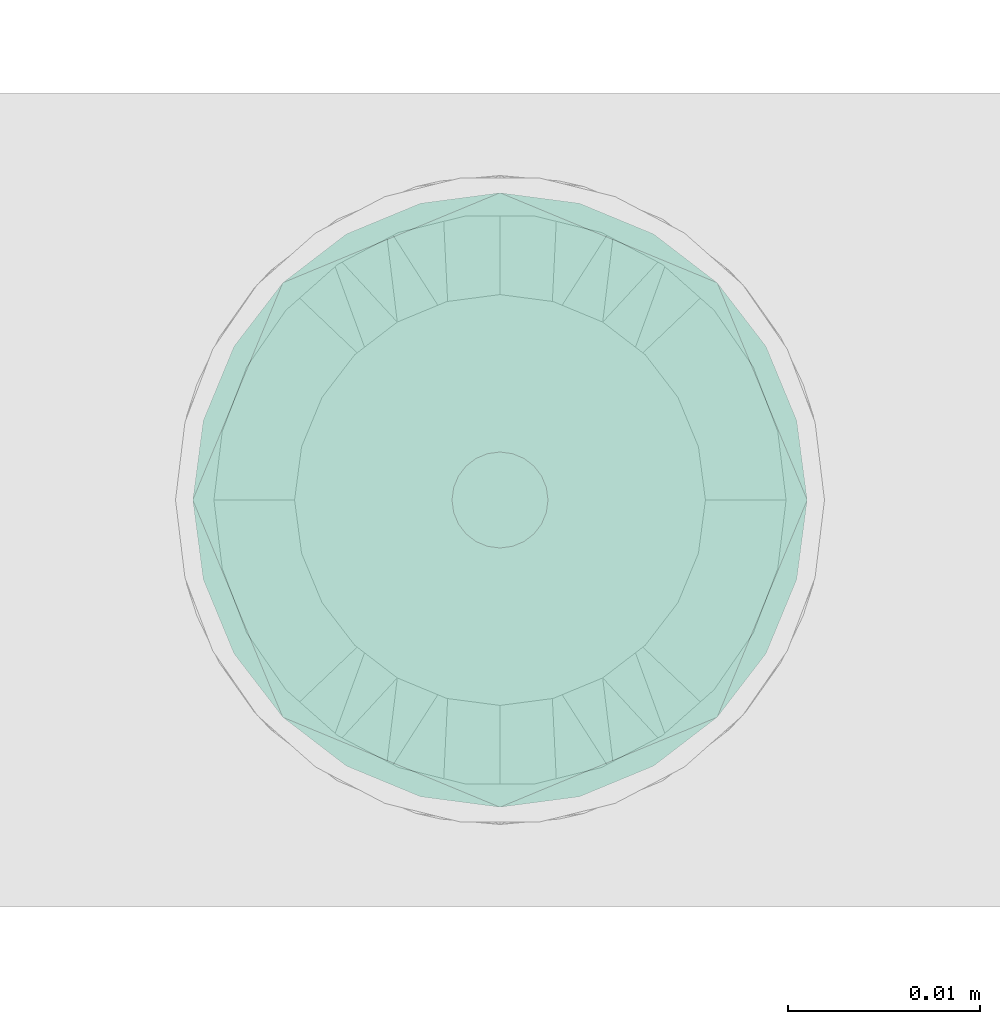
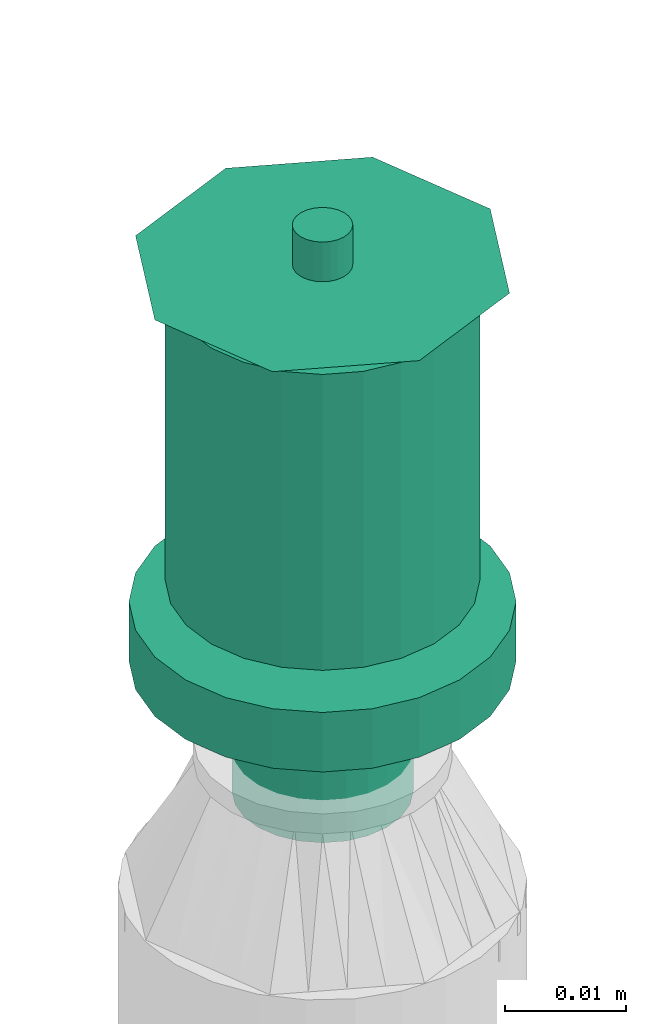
# One storey, part 89 of 94: 1 flow terminal.
"""IFC2X3 building model written with IfcOpenShell, lengths in millimetres."""

from ifc_helpers import new_model, entity, si_unit, converted_unit, derived_unit, direction, frame, origin_with_axes, place, context, subcontext, project, spatial, open_shell, surface_model, source, transform, mapped, type_object, element, save


model = new_model("IFC2X3")

# Units and contexts
model_context = context("Model", 3, precision=0.01, world=frame((0.0, 4.29681676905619e-09, 0.0)), true_north=direction((4.01073788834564e-13, 1.0)))
plan_context = context("Plan", 3, precision=0.01, world=frame((0.0, 4.29681676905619e-09, 0.0)), true_north=direction((4.01073788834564e-13, 1.0)))
body_context = subcontext(model_context, "Body", "Model", "MODEL_VIEW")
ifc_project = project(units=[converted_unit("PLANEANGLEUNIT", "DEGREE", entity("IfcPositiveLengthMeasure", 0.0174532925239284), si_unit("PLANEANGLEUNIT", "RADIAN"), dimensions=[0, 0, 0, 0, 0, 0, 0]), si_unit("AREAUNIT", "SQUARE_METRE"), si_unit("LENGTHUNIT", "METRE", prefix="MILLI"), si_unit("MASSUNIT", "GRAM", prefix="KILO"), si_unit("POWERUNIT", "WATT"), si_unit("PRESSUREUNIT", "PASCAL"), si_unit("FORCEUNIT", "NEWTON", prefix="KILO"), si_unit("ELECTRICCURRENTUNIT", "AMPERE"), si_unit("THERMODYNAMICTEMPERATUREUNIT", "DEGREE_CELSIUS"), si_unit("TIMEUNIT", "SECOND"), si_unit("VOLUMEUNIT", "CUBIC_METRE"), derived_unit("LINEARVELOCITYUNIT", [(si_unit("LENGTHUNIT", "METRE"), 1), (si_unit("TIMEUNIT", "SECOND"), -1)]), derived_unit("VOLUMETRICFLOWRATEUNIT", [(si_unit("VOLUMEUNIT", "CUBIC_METRE"), 1), (si_unit("TIMEUNIT", "SECOND"), -1)]), derived_unit("THERMALTRANSMITTANCEUNIT", [(si_unit("POWERUNIT", "WATT"), 1), (si_unit("THERMODYNAMICTEMPERATUREUNIT", "KELVIN"), -1), (si_unit("AREAUNIT", "SQUARE_METRE"), -1)])], contexts=[model_context, plan_context])

# Site, building, storey
site_placement = place(None, frame((0.0, -4.29681676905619e-09, 0.0), z_axis=(0.0, 0.0, 1.0), x_axis=(1.0, 0.0, 0.0)))
site = spatial("IfcSite", under=ifc_project, at=site_placement, CompositionType="ELEMENT")
building_placement = place(site_placement, frame((0.0, 4.29681676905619e-09, 0.0), z_axis=(0.0, 0.0, 1.0), x_axis=(1.0, 0.0, 0.0)))
building = spatial("IfcBuilding", under=site, at=building_placement, Name="mc-building", CompositionType="ELEMENT")
storey_placement = place(building_placement, frame((0.0, 0.0, 200300.0), z_axis=(0.0, 0.0, 1.0), x_axis=(1.0, 0.0, 0.0)))
storey = spatial("IfcBuildingStorey", under=building, at=storey_placement, Name="Nivå C", CompositionType="ELEMENT", Elevation=200300.0)

# Flow terminal
fire_suppression_terminal_type = type_object("IfcFireSuppressionTerminalType", Name="68DGR-STD-STÅENDE", PredefinedType="NOTDEFINED")
shared_shape = source(origin_with_axes(), body_context, "Body", "SurfaceModel", [
    surface_model("IfcShellBasedSurfaceModel", [(12.55704, 3.36465, 21.14766), (13.0, 0.0, 21.14766), (12.55704, -3.36465, 21.14766), (-12.55704, -3.36465, 21.14766), (-11.25833, -6.5, 21.14766), (-11.25833, -6.5, 51.0), (3.36465, -12.55704, 51.0), (3.36465, -12.55704, 21.14766), (6.5, -11.25833, 21.14766), (9.19239, -9.19239, 21.14766), (11.25833, -6.5, 21.14766), (9.19239, -9.19239, 51.0), (6.5, -11.25833, 51.0), (11.25833, -6.5, 51.0), (12.55704, -3.36465, 51.0), (13.0, 0.0, 51.0), (9.19239, 9.19239, 51.0), (11.25833, 6.5, 21.14766), (9.19239, 9.19239, 21.14766), (11.25833, 6.5, 51.0), (12.55704, 3.36465, 51.0), (6.5, 11.25833, 51.0), (6.5, 11.25833, 21.14766), (3.36465, 12.55704, 21.14766), (3.36465, 12.55704, 51.0), (-11.25833, 6.5, 51.0), (-11.25833, 6.5, 21.14766), (-12.55704, 3.36465, 21.14766), (0.0, -2.5, 51.0), (-2.5, 0.0, 51.0), (0.0, 2.5, 51.0), (2.5, 0.0, 51.0), (11.31371, 11.31371, 53.0), (-11.31371, 11.31371, 53.0), (-11.31371, -11.31371, 53.0), (11.31371, -11.31371, 53.0), (1.62635, 1.62635, 51.0), (2.16506, 1.25, 51.0), (1.99186, 1.15, 51.0), (-1.76777, 1.76777, 51.0), (-1.25, 2.16506, 51.0), (-1.62635, 1.62635, 51.0), (1.99186, -1.15, 51.0), (2.16506, -1.25, 51.0), (1.62635, -1.62635, 51.0), (-1.62635, -1.62635, 51.0), (-1.25, -2.16506, 51.0), (-1.76777, -1.76777, 51.0), (0.0, 7.3, 0.0), (1.94114, 7.24444, 0.0), (1.88938, 7.05126, 0.0), (5.16188, 5.16188, 0.0), (6.49519, 3.75, 0.0), (6.32199, 3.65, 0.0), (-5.3033, 5.3033, 0.0), (-3.75, 6.49519, 0.0), (-5.16188, 5.16188, 0.0), (6.32199, -3.65, 0.0), (6.49519, -3.75, 0.0), (5.16188, -5.16188, 0.0), (1.88938, -7.05126, 0.0), (1.94114, -7.24444, 0.0), (0.0, -7.3, 0.0), (-5.16188, -5.16188, 0.0), (-3.75, -6.49519, 0.0), (-5.3033, -5.3033, 0.0), (-3.36465, 12.55704, 51.0), (-6.5, 11.25833, 51.0), (0.0, 13.0, 51.0), (-9.19239, 9.19239, 51.0), (0.0, -13.0, 51.0), (-9.19239, -9.19239, 51.0), (-12.55704, -3.36465, 51.0), (-6.5, -11.25833, 51.0), (-3.36465, -12.55704, 51.0), (-7.5, 0.0, -0.1), (-7.24444, 1.94114, 0.1), (-7.24444, 1.94114, -0.1), (-6.49519, 3.75, 0.1), (-6.49519, 3.75, -0.1), (-3.75, 6.49519, -0.1), (-5.3033, 5.3033, -0.1), (-3.75, 6.49519, 0.1), (-5.3033, 5.3033, 0.1), (-1.94114, 7.24444, -0.1), (-1.94114, 7.24444, 0.1), (-7.5, 0.0, 0.1), (0.0, 7.5, 0.1), (0.0, 7.5, -0.1), (1.94114, 7.24444, 0.1), (1.94114, 7.24444, -0.1), (3.75, 6.49519, 0.1), (3.75, 6.49519, -0.1), (6.49519, 3.75, -0.1), (5.3033, 5.3033, -0.1), (6.49519, 3.75, 0.1), (5.3033, 5.3033, 0.1), (7.24444, 1.94114, -0.1), (7.24444, 1.94114, 0.1), (7.5, 0.0, 0.1), (7.5, 0.0, -0.1), (-7.24444, -1.94114, 0.1), (7.24444, -1.94114, 0.1), (5.3033, -5.3033, 0.1), (6.49519, -3.75, 0.1), (-6.49519, -3.75, 0.1), (0.0, -7.5, 0.1), (1.94114, -7.24444, 0.1), (3.75, -6.49519, 0.1), (-3.75, -6.49519, 0.1), (-1.94114, -7.24444, 0.1), (-5.3033, -5.3033, 0.1), (0.0, -7.5, -0.1), (-6.49519, -3.75, -0.1), (1.94114, -7.24444, -0.1), (3.75, -6.49519, -0.1), (5.3033, -5.3033, -0.1), (7.24444, -1.94114, -0.1), (6.49519, -3.75, -0.1), (-3.75, -6.49519, -0.1), (-5.3033, -5.3033, -0.1), (-1.94114, -7.24444, -0.1), (-7.24444, -1.94114, -0.1), (16.0, 0.0, 53.0), (0.0, -16.0, 53.0), (-16.0, 0.0, 53.0), (0.0, 16.0, 53.0), (0.64705, 2.41481, 57.0), (0.0, 2.5, 57.0), (1.25, 2.16506, 57.0), (-2.5, 0.0, 57.0), (1.76777, 1.76777, 57.0), (2.41481, 0.64705, 57.0), (2.16506, 1.25, 57.0), (-0.64705, 2.41481, 57.0), (-1.25, 2.16506, 57.0), (-1.76777, 1.76777, 57.0), (-2.16506, 1.25, 57.0), (-2.41481, 0.64705, 57.0), (2.5, 0.0, 57.0), (1.76777, -1.76777, 57.0), (2.16506, -1.25, 57.0), (2.41481, -0.64705, 57.0), (-2.41481, -0.64705, 57.0), (0.64705, -2.41481, 57.0), (1.25, -2.16506, 57.0), (0.0, -2.5, 57.0), (-1.76777, -1.76777, 57.0), (-2.16506, -1.25, 57.0), (-1.25, -2.16506, 57.0), (-0.64705, -2.41481, 57.0), (1.15, -1.99186, 51.0), (1.76777, -1.76777, 51.0), (1.25, -2.16506, 51.0), (0.59528, -2.22163, 51.0), (0.0, -2.3, 51.0), (0.64705, -2.41481, 51.0), (2.22163, -0.59528, 51.0), (2.3, 0.0, 51.0), (2.41481, -0.64705, 51.0), (-0.64705, -2.41481, 51.0), (-0.59528, -2.22163, 51.0), (-1.15, -1.99186, 51.0), (-2.16506, -1.25, 51.0), (-1.99186, -1.15, 51.0), (-2.22163, -0.59528, 51.0), (-2.3, 0.0, 51.0), (-2.41481, -0.64705, 51.0), (2.22163, 0.59528, 51.0), (2.41481, 0.64705, 51.0), (1.76777, 1.76777, 51.0), (1.15, 1.99186, 51.0), (1.25, 2.16506, 51.0), (0.59528, 2.22163, 51.0), (0.0, 2.3, 51.0), (0.64705, 2.41481, 51.0), (-1.99186, 1.15, 51.0), (-2.16506, 1.25, 51.0), (-2.41481, 0.64705, 51.0), (-2.22163, 0.59528, 51.0), (-0.64705, 2.41481, 51.0), (-0.59528, 2.22163, 51.0), (-1.15, 1.99186, 51.0), (-2.22163, 0.59528, 56.8), (-1.99186, 1.15, 56.8), (-1.15, 1.99186, 56.8), (-1.62635, 1.62635, 56.8), (-0.59528, 2.22163, 56.8), (-2.3, 0.0, 56.8), (0.0, 2.3, 56.8), (0.59528, 2.22163, 56.8), (1.15, 1.99186, 56.8), (1.99186, 1.15, 56.8), (1.62635, 1.62635, 56.8), (2.22163, 0.59528, 56.8), (2.3, 0.0, 56.8), (2.22163, -0.59528, 56.8), (1.99186, -1.15, 56.8), (1.62635, -1.62635, 56.8), (1.15, -1.99186, 56.8), (0.59528, -2.22163, 56.8), (0.0, -2.3, 56.8), (-1.99186, -1.15, 56.8), (-2.22163, -0.59528, 56.8), (-1.62635, -1.62635, 56.8), (-0.59528, -2.22163, 56.8), (-1.15, -1.99186, 56.8), (8.0, -13.85641, 13.0), (4.1411, -15.45481, 13.0), (0.0, -16.0, 13.0), (-4.1411, -15.45481, 13.0), (15.45481, -4.1411, 13.0), (13.85641, -8.0, 13.0), (11.31371, -11.31371, 13.0), (-16.0, 0.0, 13.0), (-8.0, -13.85641, 13.0), (-11.31371, -11.31371, 13.0), (-13.85641, -8.0, 13.0), (-15.45481, -4.1411, 13.0), (15.45481, 4.1411, 13.0), (4.1411, 15.45481, 13.0), (13.85641, 8.0, 13.0), (8.0, 13.85641, 13.0), (11.31371, 11.31371, 13.0), (-15.45481, 4.1411, 13.0), (-11.31371, 11.31371, 13.0), (-8.0, 13.85641, 13.0), (-13.85641, 8.0, 13.0), (-4.1411, 15.45481, 13.0), (0.0, 16.0, 13.0), (16.0, 0.0, 13.0), (7.05126, 1.88938, 12.8), (1.88938, 7.05126, 12.8), (3.65, 6.32199, 12.8), (6.32199, 3.65, 12.8), (5.16188, 5.16188, 12.8), (7.3, 0.0, 12.8), (0.0, 7.3, 12.8), (-3.65, 6.32199, 12.8), (-1.88938, 7.05126, 12.8), (-5.16188, 5.16188, 12.8), (-7.05126, 1.88938, 12.8), (-6.32199, 3.65, 12.8), (7.05126, -1.88938, 12.8), (0.0, -7.3, 12.8), (6.32199, -3.65, 12.8), (3.65, -6.32199, 12.8), (5.16188, -5.16188, 12.8), (1.88938, -7.05126, 12.8), (-7.3, 0.0, 12.8), (-6.32199, -3.65, 12.8), (-7.05126, -1.88938, 12.8), (-1.88938, -7.05126, 12.8), (-5.16188, -5.16188, 12.8), (-3.65, -6.32199, 12.8), (-7.05126, 1.88938, 0.0), (-7.3, 0.0, 0.0), (-6.32199, 3.65, 0.0), (-3.65, 6.32199, 0.0), (-1.88938, 7.05126, 0.0), (3.65, 6.32199, 0.0), (7.05126, 1.88938, 0.0), (7.3, 0.0, 0.0), (3.75, 6.49519, 13.0), (1.94114, 7.24444, 13.0), (7.5, 0.0, 13.0), (5.3033, 5.3033, 13.0), (7.24444, 1.94114, 13.0), (6.49519, 3.75, 13.0), (-5.3033, 5.3033, 13.0), (-7.24444, -1.94114, 13.0), (-1.94114, 7.24444, 13.0), (-3.75, 6.49519, 13.0), (0.0, 7.5, 13.0), (-6.49519, 3.75, 13.0), (-7.24444, 1.94114, 13.0), (7.24444, -1.94114, 13.0), (5.3033, -5.3033, 13.0), (6.49519, -3.75, 13.0), (-6.49519, -3.75, 13.0), (0.0, -7.5, 13.0), (1.94114, -7.24444, 13.0), (3.75, -6.49519, 13.0), (-7.5, 0.0, 13.0), (-3.75, -6.49519, 13.0), (-1.94114, -7.24444, 13.0), (-5.3033, -5.3033, 13.0), (3.65, -6.32199, 0.0), (5.3033, -5.3033, 0.0), (3.75, -6.49519, 0.0), (0.0, -7.5, 0.0), (7.05126, -1.88938, 0.0), (7.24444, -1.94114, 0.0), (7.5, 0.0, 0.0), (-1.94114, -7.24444, 0.0), (-1.88938, -7.05126, 0.0), (-3.65, -6.32199, 0.0), (-6.49519, -3.75, 0.0), (-6.32199, -3.65, 0.0), (-7.05126, -1.88938, 0.0), (-7.24444, -1.94114, 0.0), (-7.5, 0.0, 0.0), (7.24444, 1.94114, 0.0), (5.3033, 5.3033, 0.0), (3.75, 6.49519, 0.0), (0.0, 7.5, 0.0), (-6.49519, 3.75, 0.0), (-7.24444, 1.94114, 0.0), (-1.94114, 7.24444, 0.0), (-12.55704, 3.36465, 51.0), (-13.0, 0.0, 51.0), (0.0, -13.0, 21.14766), (-3.36465, -12.55704, 21.14766), (-6.5, -11.25833, 21.14766), (-9.19239, -9.19239, 21.14766), (-13.0, 0.0, 21.14766), (-9.19239, 9.19239, 21.14766), (-6.5, 11.25833, 21.14766), (-3.36465, 12.55704, 21.14766), (0.0, 13.0, 21.14766), (11.31371, 11.31371, 19.0), (8.0, 13.85641, 19.0), (4.1411, 15.45481, 19.0), (-8.0, 13.85641, 19.0), (16.0, 0.0, 19.0), (15.45481, 4.1411, 19.0), (13.85641, 8.0, 19.0), (-4.1411, 15.45481, 19.0), (0.0, 16.0, 19.0), (-11.31371, 11.31371, 19.0), (-13.85641, 8.0, 19.0), (-15.45481, 4.1411, 19.0), (15.45481, -4.1411, 19.0), (11.31371, -11.31371, 19.0), (13.85641, -8.0, 19.0), (-16.0, 0.0, 19.0), (0.0, -16.0, 19.0), (4.1411, -15.45481, 19.0), (8.0, -13.85641, 19.0), (-13.85641, -8.0, 19.0), (-11.31371, -11.31371, 19.0), (-15.45481, -4.1411, 19.0), (-8.0, -13.85641, 19.0), (-4.1411, -15.45481, 19.0)], [open_shell([[[0, 1, 2]], [[3, 4, 5]], [[6, 7, 8]], [[9, 10, 11]], [[9, 11, 12]], [[10, 13, 11]], [[14, 13, 2]], [[1, 15, 14]], [[16, 17, 18]], [[0, 19, 20]], [[20, 15, 1]], [[21, 16, 18]], [[22, 23, 24]], [[16, 19, 17]], [[25, 26, 27]], [[28, 29, 30]], [[30, 31, 28]], [[31, 30, 32]], [[33, 30, 29]], [[29, 28, 34]], [[35, 28, 31]], [[36, 37, 38]], [[39, 40, 41]], [[42, 43, 44]], [[45, 46, 47]], [[48, 49, 50]], [[51, 52, 53]], [[54, 55, 56]], [[57, 58, 59]], [[60, 61, 62]], [[63, 64, 65]], [[66, 67, 68]], [[67, 24, 68]], [[69, 25, 67]], [[15, 20, 14]], [[70, 6, 12]], [[5, 71, 72]], [[73, 74, 71]], [[72, 71, 74]], [[75, 76, 77]], [[77, 78, 79]], [[80, 81, 82]], [[83, 81, 79]], [[84, 80, 85]], [[76, 78, 77]], [[75, 86, 76]], [[80, 82, 85]], [[82, 81, 83]], [[79, 78, 83]], [[84, 85, 87]], [[87, 88, 84]], [[88, 89, 90]], [[90, 91, 92]], [[93, 94, 95]], [[96, 94, 92]], [[97, 93, 98]], [[91, 96, 92]], [[90, 89, 91]], [[97, 98, 99]], [[98, 93, 95]], [[94, 96, 95]], [[97, 99, 100]], [[87, 89, 88]], [[91, 89, 99]], [[96, 91, 98]], [[91, 99, 98]], [[95, 96, 98]], [[89, 83, 101]], [[85, 82, 87]], [[83, 87, 82]], [[78, 76, 83]], [[89, 87, 83]], [[76, 101, 83]], [[102, 99, 89]], [[103, 104, 102]], [[89, 105, 103]], [[103, 106, 107]], [[108, 103, 107]], [[106, 103, 105]], [[89, 101, 105]], [[101, 76, 86]], [[109, 110, 111]], [[105, 111, 110]], [[106, 105, 110]], [[103, 102, 89]], [[112, 113, 114]], [[115, 114, 116]], [[117, 118, 116]], [[113, 116, 114]], [[116, 113, 117]], [[119, 120, 121]], [[113, 121, 120]], [[121, 113, 112]], [[113, 122, 117]], [[75, 77, 122]], [[100, 117, 122]], [[100, 81, 97]], [[93, 97, 90]], [[90, 92, 94]], [[93, 90, 94]], [[90, 97, 81]], [[79, 81, 77]], [[77, 81, 122]], [[84, 88, 80]], [[81, 80, 88]], [[81, 88, 90]], [[100, 122, 81]], [[100, 102, 117]], [[117, 104, 118]], [[115, 116, 108]], [[103, 116, 118]], [[114, 115, 107]], [[102, 104, 117]], [[100, 99, 102]], [[115, 108, 107]], [[108, 116, 103]], [[118, 104, 103]], [[114, 107, 106]], [[106, 112, 114]], [[112, 110, 121]], [[121, 109, 119]], [[113, 120, 105]], [[111, 120, 119]], [[122, 113, 101]], [[109, 111, 119]], [[121, 110, 109]], [[122, 101, 86]], [[101, 113, 105]], [[120, 111, 105]], [[122, 86, 75]], [[106, 110, 112]], [[31, 123, 35]], [[35, 124, 28]], [[124, 34, 28]], [[29, 34, 125]], [[33, 32, 126]], [[33, 125, 124]], [[124, 32, 33]], [[124, 35, 123]], [[124, 125, 34]], [[123, 32, 124]], [[29, 125, 33]], [[33, 126, 30]], [[126, 32, 30]], [[31, 32, 123]], [[127, 128, 129]], [[129, 130, 131]], [[132, 131, 130]], [[133, 131, 132]], [[130, 129, 128]], [[134, 135, 128]], [[136, 128, 135]], [[137, 138, 136]], [[128, 136, 130]], [[138, 130, 136]], [[139, 132, 130]], [[140, 141, 142]], [[143, 140, 139]], [[144, 140, 143]], [[145, 140, 144]], [[146, 144, 147]], [[139, 130, 143]], [[143, 148, 144]], [[149, 150, 147]], [[144, 148, 147]], [[146, 147, 150]], [[140, 142, 139]], [[151, 152, 153]], [[154, 151, 153]], [[155, 154, 156]], [[153, 156, 154]], [[28, 155, 156]], [[44, 152, 151]], [[157, 158, 159]], [[31, 159, 158]], [[43, 157, 159]], [[152, 44, 43]], [[157, 43, 42]], [[160, 161, 28]], [[161, 155, 28]], [[162, 161, 160]], [[160, 46, 162]], [[162, 46, 45]], [[47, 163, 164]], [[165, 164, 163]], [[45, 47, 164]], [[166, 165, 167]], [[163, 167, 165]], [[29, 166, 167]], [[168, 169, 31]], [[38, 169, 168]], [[169, 38, 37]], [[170, 37, 36]], [[171, 172, 170]], [[173, 172, 171]], [[174, 175, 173]], [[172, 173, 175]], [[30, 175, 174]], [[170, 36, 171]], [[39, 176, 177]], [[41, 176, 39]], [[178, 177, 176]], [[178, 179, 29]], [[176, 179, 178]], [[179, 166, 29]], [[180, 30, 181]], [[182, 180, 181]], [[182, 41, 40]], [[180, 182, 40]], [[181, 30, 174]], [[31, 158, 168]], [[29, 138, 178]], [[178, 137, 177]], [[40, 39, 135]], [[136, 39, 177]], [[180, 40, 134]], [[138, 137, 178]], [[29, 130, 138]], [[40, 135, 134]], [[135, 39, 136]], [[177, 137, 136]], [[180, 134, 128]], [[128, 30, 180]], [[30, 127, 175]], [[175, 129, 172]], [[37, 170, 133]], [[131, 170, 172]], [[169, 37, 132]], [[129, 131, 172]], [[175, 127, 129]], [[169, 132, 139]], [[132, 37, 133]], [[170, 131, 133]], [[169, 139, 31]], [[128, 127, 30]], [[179, 183, 166]], [[176, 184, 179]], [[185, 41, 182]], [[176, 41, 186]], [[187, 182, 181]], [[179, 184, 183]], [[183, 188, 166]], [[187, 185, 182]], [[186, 41, 185]], [[186, 184, 176]], [[189, 187, 181]], [[181, 174, 189]], [[173, 190, 174]], [[171, 191, 173]], [[192, 36, 38]], [[171, 36, 193]], [[194, 38, 168]], [[171, 193, 191]], [[191, 190, 173]], [[195, 194, 168]], [[192, 38, 194]], [[192, 193, 36]], [[158, 195, 168]], [[174, 190, 189]], [[31, 142, 159]], [[159, 141, 43]], [[153, 152, 145]], [[140, 152, 43]], [[156, 153, 144]], [[142, 141, 159]], [[31, 139, 142]], [[153, 145, 144]], [[145, 152, 140]], [[43, 141, 140]], [[156, 144, 146]], [[146, 28, 156]], [[28, 150, 160]], [[160, 149, 46]], [[163, 47, 148]], [[147, 47, 46]], [[167, 163, 143]], [[149, 147, 46]], [[160, 150, 149]], [[167, 143, 130]], [[143, 163, 148]], [[47, 147, 148]], [[167, 130, 29]], [[146, 150, 28]], [[190, 191, 193]], [[190, 193, 195]], [[194, 195, 193]], [[194, 193, 192]], [[190, 195, 186]], [[189, 185, 187]], [[185, 189, 186]], [[186, 183, 184]], [[186, 189, 190]], [[186, 196, 183]], [[186, 195, 196]], [[196, 197, 198]], [[196, 198, 199]], [[199, 200, 201]], [[199, 201, 196]], [[196, 201, 202]], [[188, 202, 203]], [[183, 202, 188]], [[204, 205, 206]], [[205, 204, 202]], [[201, 205, 202]], [[202, 183, 196]], [[157, 196, 158]], [[42, 197, 157]], [[199, 44, 151]], [[42, 44, 198]], [[200, 151, 154]], [[157, 197, 196]], [[196, 195, 158]], [[200, 199, 151]], [[198, 44, 199]], [[198, 197, 42]], [[201, 200, 154]], [[154, 155, 201]], [[161, 205, 155]], [[162, 206, 161]], [[202, 45, 164]], [[162, 45, 204]], [[203, 164, 165]], [[162, 204, 206]], [[206, 205, 161]], [[188, 203, 165]], [[202, 164, 203]], [[202, 204, 45]], [[166, 188, 165]], [[155, 205, 201]], [[207, 208, 209]], [[207, 209, 210]], [[211, 212, 213]], [[213, 207, 214]], [[211, 213, 214]], [[215, 216, 210]], [[217, 210, 216]], [[217, 218, 210]], [[218, 207, 210]], [[218, 214, 207]], [[214, 219, 211]], [[220, 219, 214]], [[221, 219, 220]], [[220, 222, 223]], [[221, 220, 223]], [[214, 224, 220]], [[225, 226, 227]], [[224, 227, 226]], [[228, 229, 226]], [[220, 224, 226]], [[226, 229, 220]], [[219, 230, 211]], [[231, 232, 233]], [[234, 233, 235]], [[231, 236, 232]], [[231, 233, 234]], [[232, 236, 237]], [[237, 238, 239]], [[238, 237, 240]], [[240, 241, 242]], [[240, 237, 236]], [[236, 241, 240]], [[236, 243, 241]], [[244, 243, 245]], [[246, 245, 247]], [[246, 248, 244]], [[246, 244, 245]], [[243, 244, 249]], [[249, 250, 251]], [[250, 249, 252]], [[253, 252, 254]], [[252, 253, 250]], [[249, 244, 252]], [[243, 249, 241]], [[255, 241, 256]], [[257, 242, 255]], [[238, 56, 258]], [[257, 56, 240]], [[239, 258, 259]], [[255, 242, 241]], [[241, 249, 256]], [[239, 238, 258]], [[240, 56, 238]], [[240, 242, 257]], [[237, 239, 259]], [[259, 48, 237]], [[50, 232, 48]], [[260, 233, 50]], [[234, 51, 53]], [[260, 51, 235]], [[231, 53, 261]], [[260, 235, 233]], [[233, 232, 50]], [[236, 231, 261]], [[234, 53, 231]], [[234, 235, 51]], [[262, 236, 261]], [[48, 232, 237]], [[263, 264, 265]], [[266, 263, 267]], [[263, 265, 267]], [[268, 266, 267]], [[264, 269, 270]], [[271, 272, 273]], [[269, 273, 272]], [[274, 275, 269]], [[264, 273, 269]], [[275, 270, 269]], [[276, 265, 264]], [[277, 278, 276]], [[264, 279, 277]], [[277, 280, 281]], [[282, 277, 281]], [[280, 277, 279]], [[264, 270, 279]], [[270, 275, 283]], [[284, 285, 286]], [[279, 286, 285]], [[280, 279, 285]], [[277, 276, 264]], [[287, 288, 289]], [[60, 287, 289]], [[290, 62, 61]], [[289, 61, 60]], [[59, 288, 287]], [[291, 262, 292]], [[293, 292, 262]], [[58, 291, 292]], [[288, 59, 58]], [[291, 58, 57]], [[294, 295, 290]], [[296, 295, 294]], [[294, 64, 296]], [[64, 63, 296]], [[295, 62, 290]], [[65, 297, 298]], [[299, 298, 297]], [[63, 65, 298]], [[256, 299, 300]], [[297, 300, 299]], [[301, 256, 300]], [[261, 302, 293]], [[53, 302, 261]], [[302, 53, 52]], [[303, 52, 51]], [[260, 304, 303]], [[50, 304, 260]], [[304, 50, 49]], [[305, 49, 48]], [[303, 51, 260]], [[54, 257, 306]], [[56, 257, 54]], [[307, 306, 257]], [[307, 255, 301]], [[257, 255, 307]], [[255, 256, 301]], [[308, 305, 259]], [[258, 308, 259]], [[55, 258, 56]], [[308, 258, 55]], [[259, 305, 48]], [[293, 262, 261]], [[301, 275, 307]], [[307, 274, 306]], [[55, 54, 272]], [[269, 54, 306]], [[308, 55, 271]], [[275, 274, 307]], [[301, 283, 275]], [[55, 272, 271]], [[272, 54, 269]], [[306, 274, 269]], [[308, 271, 273]], [[273, 305, 308]], [[305, 264, 49]], [[49, 263, 304]], [[52, 303, 268]], [[266, 303, 304]], [[302, 52, 267]], [[263, 266, 304]], [[49, 264, 263]], [[302, 267, 265]], [[267, 52, 268]], [[303, 266, 268]], [[302, 265, 293]], [[273, 264, 305]], [[293, 276, 292]], [[292, 278, 58]], [[289, 288, 282]], [[277, 288, 58]], [[61, 289, 281]], [[276, 278, 292]], [[293, 265, 276]], [[289, 282, 281]], [[282, 288, 277]], [[58, 278, 277]], [[61, 281, 280]], [[280, 290, 61]], [[290, 285, 294]], [[294, 284, 64]], [[297, 65, 279]], [[286, 65, 64]], [[300, 297, 270]], [[284, 286, 64]], [[294, 285, 284]], [[300, 270, 283]], [[270, 297, 279]], [[65, 286, 279]], [[300, 283, 301]], [[280, 285, 290]], [[291, 243, 262]], [[57, 245, 291]], [[246, 59, 287]], [[57, 59, 247]], [[248, 287, 60]], [[291, 245, 243]], [[243, 236, 262]], [[248, 246, 287]], [[247, 59, 246]], [[247, 245, 57]], [[244, 248, 60]], [[60, 62, 244]], [[295, 252, 62]], [[296, 254, 295]], [[250, 63, 298]], [[296, 63, 253]], [[251, 298, 299]], [[296, 253, 254]], [[254, 252, 295]], [[249, 251, 299]], [[250, 298, 251]], [[250, 253, 63]], [[256, 249, 299]], [[62, 252, 244]], [[16, 21, 24]], [[20, 16, 24]], [[24, 67, 72]], [[19, 16, 20]], [[24, 72, 20]], [[25, 72, 67]], [[309, 310, 25]], [[11, 13, 14]], [[72, 11, 20]], [[74, 12, 11]], [[12, 74, 70]], [[72, 25, 310]], [[72, 74, 11]], [[11, 14, 20]], [[8, 7, 311]], [[8, 311, 312]], [[2, 10, 9]], [[3, 9, 8]], [[3, 26, 9]], [[313, 314, 312]], [[3, 312, 314]], [[4, 3, 314]], [[3, 8, 312]], [[315, 26, 3]], [[2, 9, 26]], [[0, 2, 26]], [[17, 0, 18]], [[23, 22, 18]], [[0, 23, 18]], [[23, 0, 26]], [[316, 317, 26]], [[26, 315, 27]], [[318, 319, 317]], [[23, 26, 317]], [[23, 317, 319]], [[316, 26, 25]], [[318, 317, 67]], [[69, 317, 316]], [[319, 318, 66]], [[310, 309, 315]], [[27, 315, 309]], [[25, 27, 309]], [[25, 69, 316]], [[317, 69, 67]], [[67, 66, 318]], [[66, 68, 319]], [[22, 21, 18]], [[0, 17, 19]], [[1, 0, 20]], [[68, 24, 23]], [[24, 21, 22]], [[319, 68, 23]], [[1, 14, 2]], [[2, 13, 10]], [[6, 311, 7]], [[6, 8, 12]], [[12, 8, 9]], [[6, 70, 311]], [[313, 312, 74]], [[313, 73, 314]], [[71, 4, 314]], [[315, 3, 72]], [[70, 74, 312]], [[74, 73, 313]], [[73, 71, 314]], [[71, 5, 4]], [[3, 5, 72]], [[72, 310, 315]], [[311, 70, 312]], [[320, 321, 322]], [[320, 322, 323]], [[320, 324, 325]], [[326, 320, 325]], [[324, 320, 323]], [[327, 323, 328]], [[323, 322, 328]], [[329, 330, 323]], [[331, 323, 330]], [[323, 331, 324]], [[331, 332, 324]], [[333, 334, 332]], [[335, 333, 331]], [[336, 337, 338]], [[335, 338, 333]], [[338, 335, 336]], [[339, 340, 341]], [[335, 341, 340]], [[342, 343, 340]], [[335, 340, 343]], [[343, 336, 335]], [[332, 331, 333]], [[214, 331, 224]], [[224, 330, 227]], [[226, 225, 323]], [[329, 225, 227]], [[228, 226, 327]], [[331, 330, 224]], [[214, 335, 331]], [[226, 323, 327]], [[323, 225, 329]], [[227, 330, 329]], [[228, 327, 328]], [[328, 229, 228]], [[229, 322, 220]], [[220, 321, 222]], [[221, 223, 326]], [[320, 223, 222]], [[219, 221, 325]], [[321, 320, 222]], [[220, 322, 321]], [[219, 325, 324]], [[325, 221, 326]], [[223, 320, 326]], [[219, 324, 230]], [[328, 322, 229]], [[230, 332, 211]], [[211, 334, 212]], [[207, 213, 338]], [[333, 213, 212]], [[208, 207, 337]], [[332, 334, 211]], [[230, 324, 332]], [[207, 338, 337]], [[338, 213, 333]], [[212, 334, 333]], [[208, 337, 336]], [[336, 209, 208]], [[209, 343, 210]], [[210, 342, 215]], [[217, 216, 339]], [[340, 216, 215]], [[218, 217, 341]], [[342, 340, 215]], [[210, 343, 342]], [[218, 341, 335]], [[341, 217, 339]], [[216, 340, 339]], [[218, 335, 214]], [[336, 343, 209]]])]),
])
flow_terminal_placement = place(storey_placement, frame((530503.12395, 418699.60987, 2972.0), z_axis=(0.0, 0.0, 1.0), x_axis=(-1.0, 0.0, 0.0)))
element("IfcFlowTerminal", 1, at=flow_terminal_placement, inside=storey, type_object=fire_suppression_terminal_type, Name="68DGR-STD-STÅENDE", context=body_context, shape_type="MappedRepresentation", body=[
    mapped(shared_shape, transform((0.0, 0.0, 0.0), scale=1.0)),
])

save(model, "model.ifc")
